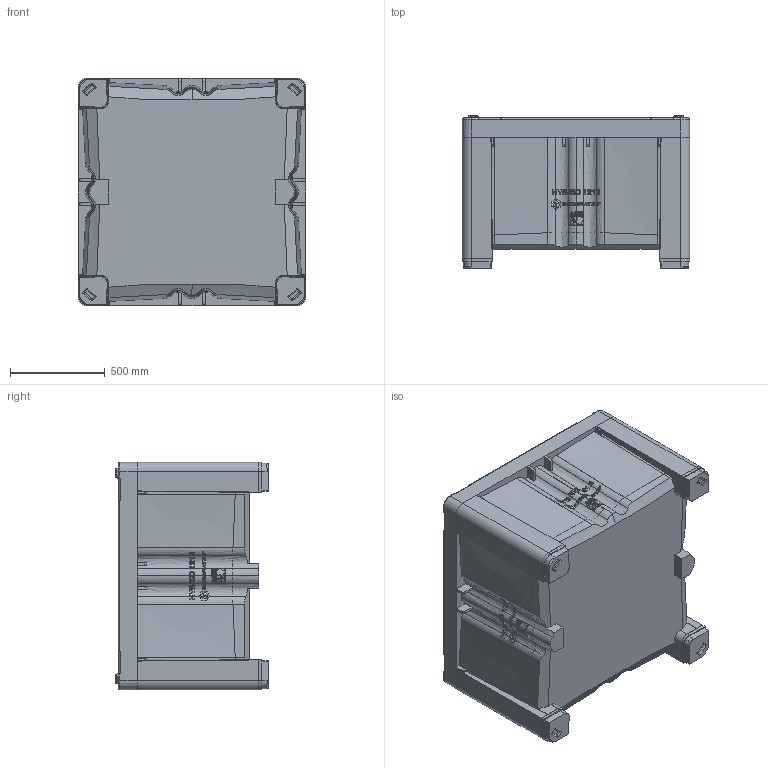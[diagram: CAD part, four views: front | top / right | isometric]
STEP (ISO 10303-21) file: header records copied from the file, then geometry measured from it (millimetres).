
FILE_DESCRIPTION (( 'STEP AP214' ), '1' );
FILE_NAME ('1112xxxxxxxx 1212-790 Hybrid Block Padfoot.STEP', '2018-08-28T23:06:18', ( '' ), ( '' ), 'SwSTEP 2.0', 'SolidWorks 2018', '' );
FILE_SCHEMA (( 'AUTOMOTIVE_DESIGN' ));
Length unit declared in the file: millimetre
Products named in the file (1): 1112xxxxxxxx 1212-790 Hybrid Block Padfoot
Bounding box: 1200 x 802.5 x 1200 mm (x, y, z)
Volume: 116861995.3 mm3; surface area: 10562751.1 mm2
Topology: 9 solids, 9 shells, 6149 faces, 16734 edges, 11093 vertices
Faces by surface type: plane 3003, bspline 2624, cylinder 484, sphere 18, cone 16, torus 4
Entity records: 330378 total; most frequent: CARTESIAN_POINT 200867, ORIENTED_EDGE 33436, EDGE_CURVE 16718, DIRECTION 14684, VERTEX_POINT 11093, B_SPLINE_CURVE_WITH_KNOTS 9200, LINE 7228, VECTOR 7228
